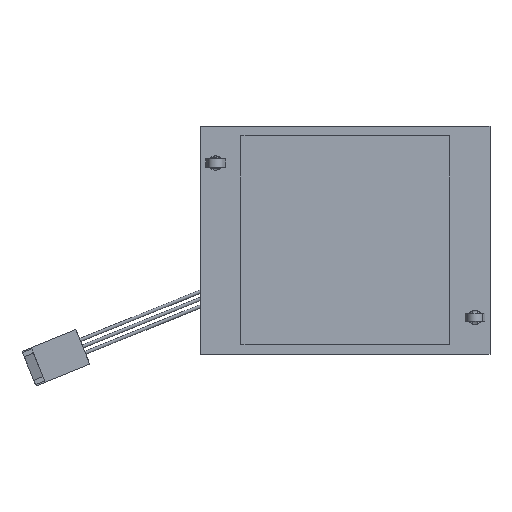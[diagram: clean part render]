
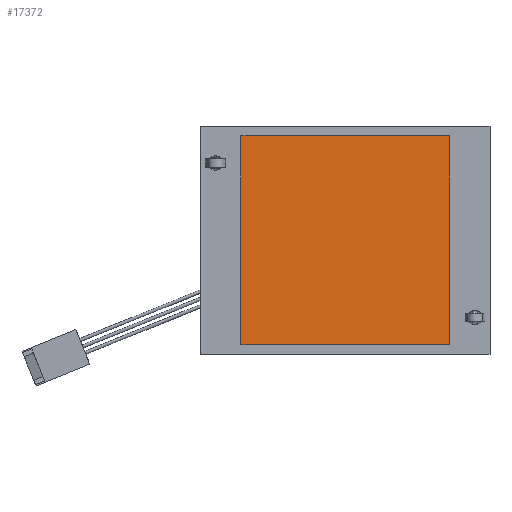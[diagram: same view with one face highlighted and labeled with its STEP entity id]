
A CAD part, front view. The second image highlights one B-rep face of the part: STEP entity #17372.
In plain terms, the highlighted planar face has unit normal (0, -1, 0).
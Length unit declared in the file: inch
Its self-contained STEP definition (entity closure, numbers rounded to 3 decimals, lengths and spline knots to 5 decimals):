
#1405 = AXIS2_PLACEMENT_3D ( 'NONE', #47208, #50864, #46570 ) ;
#1420 = VERTEX_POINT ( 'NONE', #53854 ) ;
#3402 = ORIENTED_EDGE ( 'NONE', *, *, #44400, .F. ) ;
#10469 = DIRECTION ( 'NONE',  ( 1., 0., 0. ) ) ;
#11064 = VERTEX_POINT ( 'NONE', #20395 ) ;
#12923 = EDGE_CURVE ( 'NONE', #34584, #11064, #25156, .T. ) ;
#15120 = CARTESIAN_POINT ( 'NONE',  ( 0.90002, -0.00512, 0.89992 ) ) ;
#15933 = DIRECTION ( 'NONE',  ( 0., 0., 1. ) ) ;
#16583 = VECTOR ( 'NONE', #15933, 39.37008 ) ;
#17372 = ADVANCED_FACE ( 'NONE', ( #41256 ), #26297, .F. ) ;
#18673 = VECTOR ( 'NONE', #33401, 39.37008 ) ;
#19360 = VERTEX_POINT ( 'NONE', #46065 ) ;
#19601 = VECTOR ( 'NONE', #10469, 39.37008 ) ;
#20395 = CARTESIAN_POINT ( 'NONE',  ( 0.90002, -0.00512, 0.89992 ) ) ;
#22493 = ORIENTED_EDGE ( 'NONE', *, *, #41619, .F. ) ;
#23534 = VECTOR ( 'NONE', #28528, 39.37008 ) ;
#24748 = LINE ( 'NONE', #45036, #18673 ) ;
#25156 = LINE ( 'NONE', #15120, #19601 ) ;
#25755 = CARTESIAN_POINT ( 'NONE',  ( 0.90002, -0.00512, 0.89992 ) ) ;
#26297 = PLANE ( 'NONE',  #1405 ) ;
#28528 = DIRECTION ( 'NONE',  ( 0., 0., -1. ) ) ;
#33401 = DIRECTION ( 'NONE',  ( -1., 0., 0. ) ) ;
#34584 = VERTEX_POINT ( 'NONE', #57150 ) ;
#35077 = EDGE_LOOP ( 'NONE', ( #3402, #22493, #52840, #42989 ) ) ;
#36031 = EDGE_CURVE ( 'NONE', #11064, #19360, #61010, .T. ) ;
#41256 = FACE_OUTER_BOUND ( 'NONE', #35077, .T. ) ;
#41530 = CARTESIAN_POINT ( 'NONE',  ( -0.89998, -0.00512, 0.89992 ) ) ;
#41619 = EDGE_CURVE ( 'NONE', #19360, #1420, #24748, .T. ) ;
#42989 = ORIENTED_EDGE ( 'NONE', *, *, #12923, .F. ) ;
#44400 = EDGE_CURVE ( 'NONE', #1420, #34584, #56512, .T. ) ;
#45036 = CARTESIAN_POINT ( 'NONE',  ( 0.90002, -0.00512, -0.90008 ) ) ;
#46065 = CARTESIAN_POINT ( 'NONE',  ( 0.90002, -0.00512, -0.90008 ) ) ;
#46570 = DIRECTION ( 'NONE',  ( 0., 0., 1. ) ) ;
#47208 = CARTESIAN_POINT ( 'NONE',  ( 0.00002, -0.00512, -0.00008 ) ) ;
#50864 = DIRECTION ( 'NONE',  ( 0., 1., 0. ) ) ;
#52840 = ORIENTED_EDGE ( 'NONE', *, *, #36031, .F. ) ;
#53854 = CARTESIAN_POINT ( 'NONE',  ( -0.89998, -0.00512, -0.90008 ) ) ;
#56512 = LINE ( 'NONE', #41530, #16583 ) ;
#57150 = CARTESIAN_POINT ( 'NONE',  ( -0.89998, -0.00512, 0.89992 ) ) ;
#61010 = LINE ( 'NONE', #25755, #23534 ) ;
